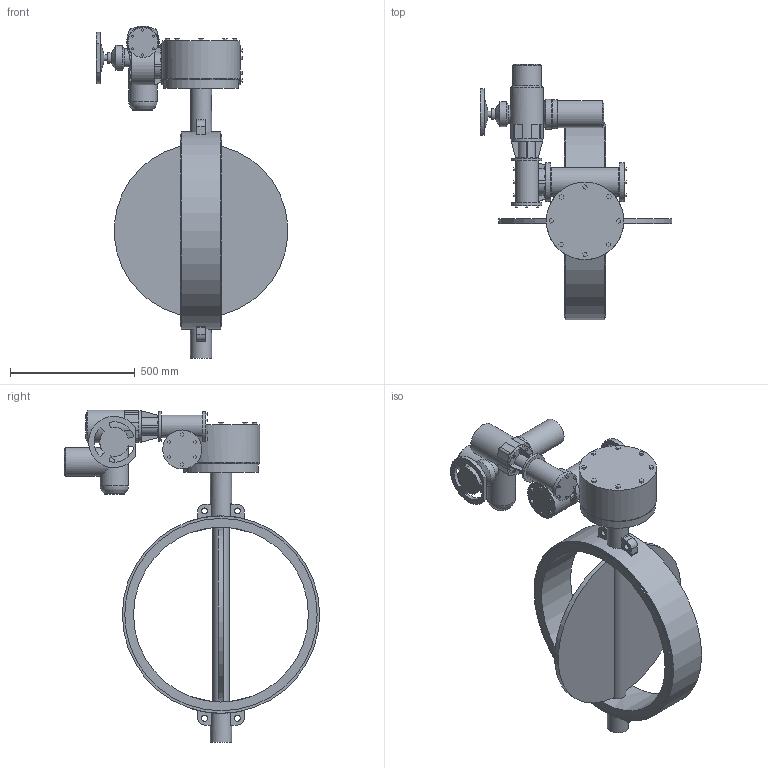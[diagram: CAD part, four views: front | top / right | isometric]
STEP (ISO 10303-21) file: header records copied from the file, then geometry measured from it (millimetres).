
FILE_DESCRIPTION(('STEP AP203'), '1');
FILE_NAME('青蜮铕 017W.YS_DN700_PN10_MT903.A10', '', ('UNSPECIFIED'), ('UNSPECIFIED'), 'ASCON STEP Converter 1.6', 'ASCON Math Kernel', '');
FILE_SCHEMA(('CONFIG_CONTROL_DESIGN'));
Length unit declared in the file: millimetre
Bounding box: 764.68 x 1022 x 1329 mm (x, y, z)
Volume: 58546205.1 mm3; surface area: 2979152.2 mm2
Topology: 1 solids, 1 shells, 563 faces, 1444 edges, 946 vertices
Faces by surface type: plane 424, cylinder 98, cone 25, torus 16
Full cylindrical faces by diameter (mm): 8.5 x4, 12 x4, 13.835 x8, 18 x8, 23.752 x4, 24 x1, 42 x1, 65 x1, 66 x1, 72 x1, 80 x1, 85 x2, 90 x1, 100 x1, 108 x1, 114 x1, 115 x1, 116 x2, 119 x1, 120 x2, 125 x1, 132 x1, 156 x3, 300 x1, 310 x1, 700 x1, 770 x2, 790 x1
Entity records: 24402 total; most frequent: CARTESIAN_POINT 6433, ORIENTED_EDGE 2702, DIRECTION 2659, EDGE_CURVE 1351, LINE 1009, VECTOR 1009, VERTEX_POINT 940, AXIS2_PLACEMENT_3D 825
